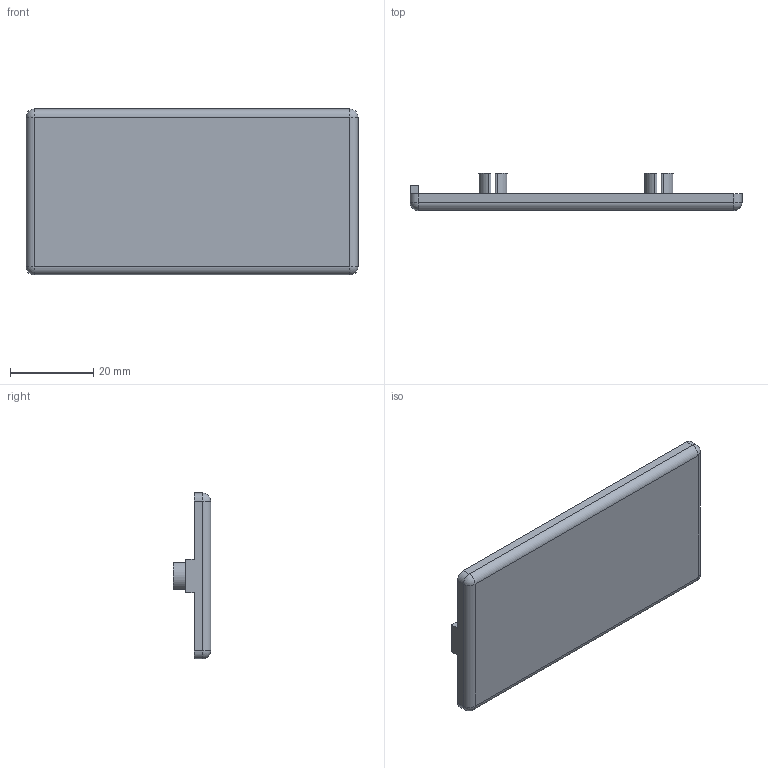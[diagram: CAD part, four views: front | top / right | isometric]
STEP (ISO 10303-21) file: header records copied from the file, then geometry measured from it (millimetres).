
FILE_DESCRIPTION (( 'STEP AP214' ), '1' );
FILE_NAME ('4009.STEP', '2017-08-10T06:15:30', ( '' ), ( '' ), 'SwSTEP 2.0', 'SolidWorks 2014', '' );
FILE_SCHEMA (( 'AUTOMOTIVE_DESIGN' ));
Length unit declared in the file: millimetre
Products named in the file (2): 4009
Bounding box: 80 x 9 x 40 mm (x, y, z)
Volume: 7384.1 mm3; surface area: 8123.2 mm2
Topology: 1 solids, 1 shells, 70 faces, 184 edges, 116 vertices
Faces by surface type: cylinder 40, plane 26, sphere 4
Entity records: 2197 total; most frequent: DIRECTION 404, CARTESIAN_POINT 368, ORIENTED_EDGE 360, EDGE_CURVE 180, AXIS2_PLACEMENT_3D 152, VERTEX_POINT 116, VECTOR 100, LINE 100
